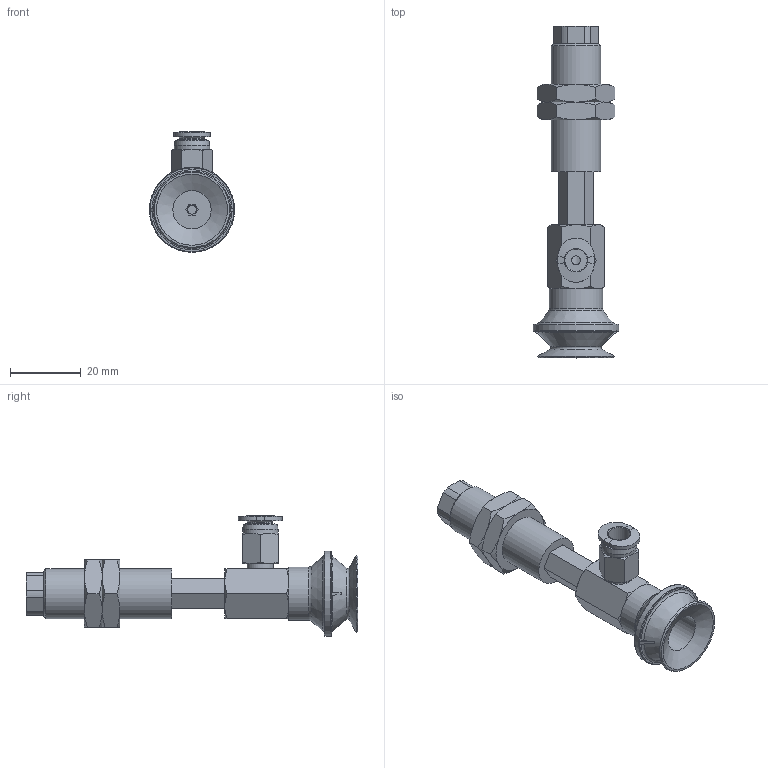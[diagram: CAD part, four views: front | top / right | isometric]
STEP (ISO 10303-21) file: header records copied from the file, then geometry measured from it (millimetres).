
FILE_DESCRIPTION(('STEP AP203'),'1');
FILE_NAME('-O.stp','2025-04-02T01:59:55',(' '),(' '),'Spatial InterOp 3D',' ',' ');
FILE_SCHEMA(('CONFIG_CONTROL_DESIGN'));
Length unit declared in the file: millimetre
Products named in the file (8): BNABPBYH-20-15-※-O; Adapter20-T-NAPB; CONNECTOR-20-15-PB; Nut-20-S-PB; NAPBTH-20-15-FBODY; NAPBTH-20-15-MBODY; BPBG-20-※; PC-C_06-M5
Assembly tree (8 placements, depth 2):
  BNABPBYH-20-15-※-O
    Adapter20-T-NAPB
    CONNECTOR-20-15-PB
    Nut-20-S-PB  x2
    NAPBTH-20-15-FBODY
    NAPBTH-20-15-MBODY
    BPBG-20-※
    PC-C_06-M5
Bounding box: 24 x 93.5 x 33.98 mm (x, y, z)
Volume: 14817.2 mm3; surface area: 12504.9 mm2
Topology: 7 solids, 10 shells, 216 faces, 472 edges, 290 vertices
Faces by surface type: plane 96, cone 72, cylinder 30, torus 11, bspline 4, revolution 3
Full cylindrical faces by diameter (mm): 2.5 x1, 3 x1, 4 x2, 4.134 x3, 4.6 x1, 5 x3, 7 x1, 7.4 x1, 8.2 x1, 10 x1, 10.8 x1, 11 x1, 12.917 x2, 14 x1, 15 x1, 24 x1
Entity records: 5832 total; most frequent: CARTESIAN_POINT 1531, DIRECTION 813, ORIENTED_EDGE 722, EDGE_CURVE 363, AXIS2_PLACEMENT_3D 335, EDGE_LOOP 272, VERTEX_POINT 251, FACE_OUTER_BOUND 163
